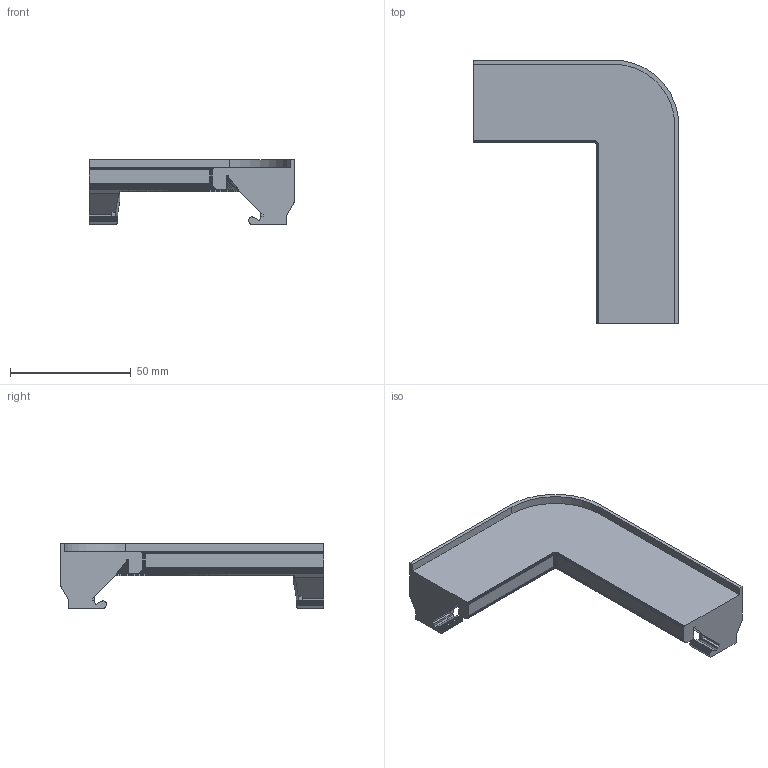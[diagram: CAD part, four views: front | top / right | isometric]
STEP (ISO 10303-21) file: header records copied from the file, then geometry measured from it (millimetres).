
FILE_DESCRIPTION(('Open CASCADE Model'),'2;1');
FILE_NAME('Open CASCADE Shape Model','2026-10-27T10:19:43',('Author'),( 'Open CASCADE'),'Open CASCADE STEP processor 8.0','build123d', 'Unknown');
FILE_SCHEMA(('AUTOMOTIVE_DESIGN { 1 0 10303 214 1 1 1 1 }'));
Products named in the file (1): SOLID
Bounding box: 85.2 x 109.2 x 26.9 mm (x, y, z)
Volume: 53665.1 mm3; surface area: 18356 mm2
Topology: 1 solids, 1 shells, 886 faces, 1987 edges, 1104 vertices
Faces by surface type: bspline 632, plane 248, cylinder 4, cone 2
Entity records: 47945 total; most frequent: CARTESIAN_POINT 12360, DIRECTION 4702, LINE 3975, VECTOR 3975, ORIENTED_EDGE 3974, PCURVE 3974, DEFINITIONAL_REPRESENTATION 3974, EDGE_CURVE 1987
